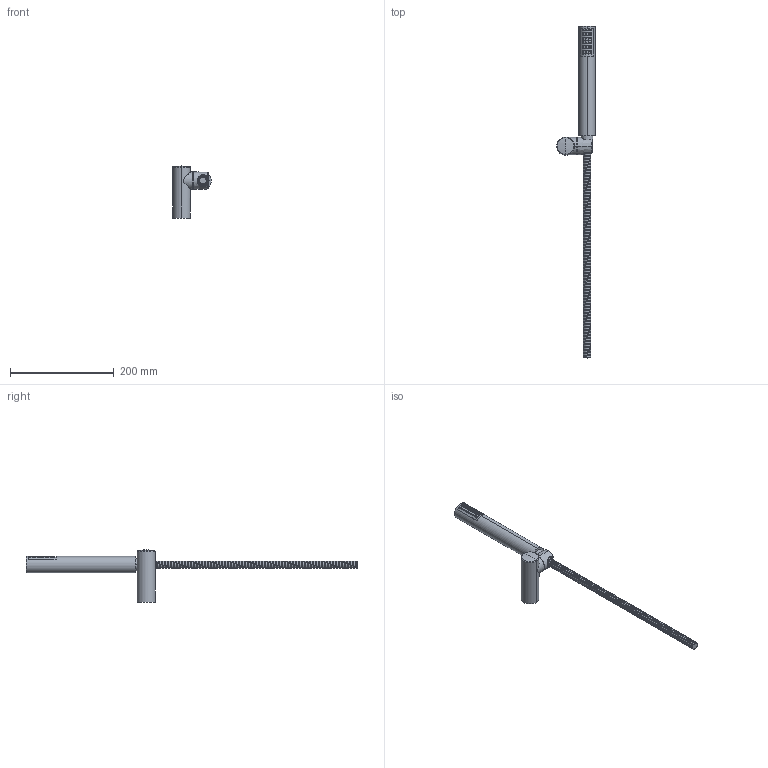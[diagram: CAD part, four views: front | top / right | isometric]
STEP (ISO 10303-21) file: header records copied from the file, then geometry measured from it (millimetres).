
FILE_DESCRIPTION((''),'2;1');
FILE_NAME('F4084_2013_ASM','2013-05-10T',('ivanv'),(''),'PRO/ENGINEER BY PARAMETRIC TECHNOLOGY CORPORATION, 2012130','PRO/ENGINEER BY PARAMETRIC TECHNOLOGY CORPORATION, 2012130','');
FILE_SCHEMA(('CONFIG_CONTROL_DESIGN'));
Length unit declared in the file: millimetre
Products named in the file (7): 6156_SUPPORTO_DOCCIA; TERMINALE_CONICO_1_2; 6470_FLEX_G1-2_PER_DOCCETTA_AF0; CALOTTA_1_2_TONDA_AF0; 6470_FLES_1_2X1_2_150_ZIGR_AF0_ASM; 6995_DOCCIA_TUBOLARE; F4084_2013_ASM
Assembly tree (6 placements, depth 3):
  F4084_2013_ASM
    6156_SUPPORTO_DOCCIA
    6470_FLES_1_2X1_2_150_ZIGR_AF0_ASM
      TERMINALE_CONICO_1_2
      6470_FLEX_G1-2_PER_DOCCETTA_AF0
      CALOTTA_1_2_TONDA_AF0
    6995_DOCCIA_TUBOLARE
Bounding box: 74.8 x 641.01 x 101 mm (x, y, z)
Volume: 352262.9 mm3; surface area: 68726.1 mm2
Topology: 4 solids, 5 shells, 531 faces, 1299 edges, 911 vertices
Faces by surface type: cylinder 376, bspline 72, plane 65, torus 8, sphere 6, cone 4
Entity records: 30512 total; most frequent: CARTESIAN_POINT 18852, ORIENTED_EDGE 2488, DIRECTION 2054, EDGE_CURVE 1246, VERTEX_POINT 809, AXIS2_PLACEMENT_3D 795, EDGE_LOOP 619, B_SPLINE_CURVE_WITH_KNOTS 578
